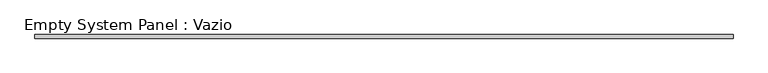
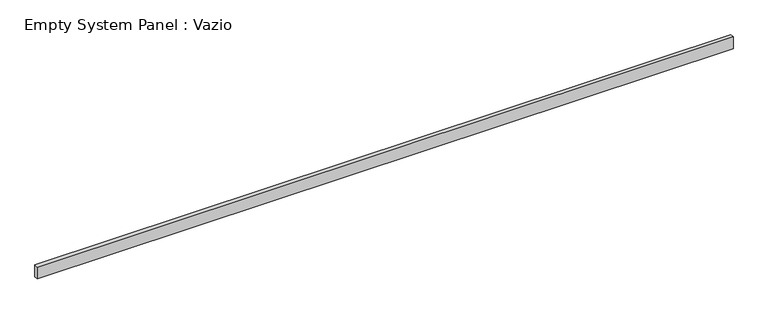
"""IFC4 building model written with IfcOpenShell, lengths in millimetres: plate geometry, Empty System Panel : Vazio."""

from ifc_helpers import new_model, si_unit, origin, origin_with_axes, place, context, project, spatial, polyline, outline, extrude, source, transform, mapped, element, save


def empty_system_panel_vazio_8e6531d4(model_context):
    return source(origin(), model_context, "Body", "SweptSolid", [
        extrude(outline(polyline([(9575.0, 50.0), (-9575.0, 50.0), (-9575.0, 150.0), (9575.0, 150.0), (9575.0, 50.0)])), origin_with_axes(), (0.0, 0.0, 1.0), 338.3409509),
    ])


if __name__ == "__main__":
    model = new_model("IFC4")
    model_context = context("Model", 3, world=origin())
    ifc_project = project(units=[si_unit("LENGTHUNIT", "METRE", prefix="MILLI")], contexts=[model_context])
    site = spatial("IfcSite", under=ifc_project)
    building = spatial("IfcBuilding", under=site)
    placement = place(None, origin())
    empty_system_panel_vazio_shape = empty_system_panel_vazio_8e6531d4(model_context)
    element("IfcPlate", 1, ObjectType="Empty System Panel : Vazio", at=placement, inside=building, context=model_context, shape_type="MappedRepresentation", body=[
        mapped(empty_system_panel_vazio_shape, transform((0.0, 0.0, 0.0), x_axis=(1.0, 0.0, 0.0), y_axis=(0.0, 1.0, 0.0), z_axis=(0.0, 0.0, 1.0))),
    ])
    save(model, "model.ifc")
